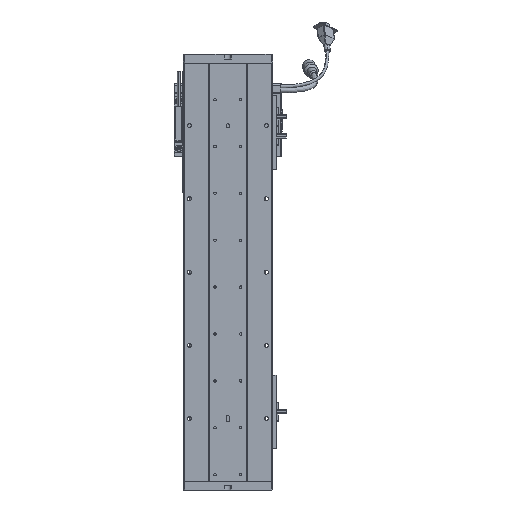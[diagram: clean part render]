
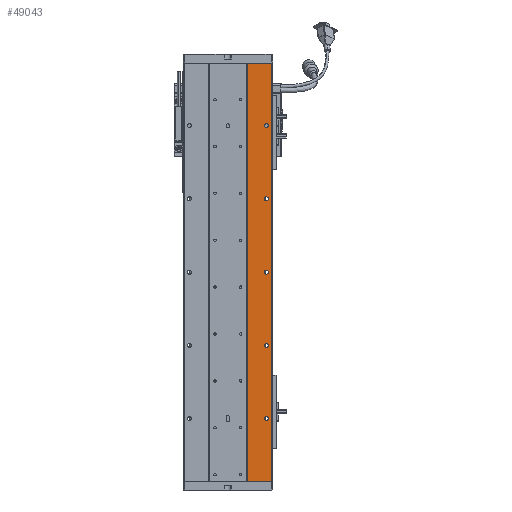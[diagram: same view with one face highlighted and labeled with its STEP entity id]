
A CAD part, front view. The second image highlights one B-rep face of the part: STEP entity #49043.
In plain terms, the highlighted planar face has unit normal (0, -1, 0).
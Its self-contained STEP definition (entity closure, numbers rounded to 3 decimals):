
#82 = AXIS2_PLACEMENT_3D ( 'NONE', #60183, #43814, #5300 ) ;
#1457 = FACE_BOUND ( 'NONE', #54904, .T. ) ;
#1983 = AXIS2_PLACEMENT_3D ( 'NONE', #3714, #9398, #14108 ) ;
#2239 = DIRECTION ( 'NONE',  ( 0., 1., 0. ) ) ;
#2270 = VERTEX_POINT ( 'NONE', #67600 ) ;
#2427 = EDGE_CURVE ( 'NONE', #55731, #41365, #64438, .T. ) ;
#2991 = AXIS2_PLACEMENT_3D ( 'NONE', #46417, #53345, #51885 ) ;
#3366 = VERTEX_POINT ( 'NONE', #18206 ) ;
#3714 = CARTESIAN_POINT ( 'NONE',  ( 207.625, 76.768, 385.5 ) ) ;
#4024 = CIRCLE ( 'NONE', #35786, 2.75 ) ;
#4547 = DIRECTION ( 'NONE',  ( 0., 0., -1. ) ) ;
#4873 = FACE_BOUND ( 'NONE', #53090, .T. ) ;
#5300 = DIRECTION ( 'NONE',  ( 0., 0., 1. ) ) ;
#5404 = CARTESIAN_POINT ( 'NONE',  ( 214.532, 76.768, 571. ) ) ;
#5788 = CARTESIAN_POINT ( 'NONE',  ( 181.625, 76.768, 571. ) ) ;
#6448 = ORIENTED_EDGE ( 'NONE', *, *, #24940, .F. ) ;
#6592 = DIRECTION ( 'NONE',  ( 0., 1., 0. ) ) ;
#8268 = FACE_BOUND ( 'NONE', #39313, .T. ) ;
#8433 = EDGE_CURVE ( 'NONE', #27544, #26632, #40908, .T. ) ;
#9206 = AXIS2_PLACEMENT_3D ( 'NONE', #35729, #46166, #30067 ) ;
#9398 = DIRECTION ( 'NONE',  ( 0., 1., 0. ) ) ;
#9438 = DIRECTION ( 'NONE',  ( 0., 0., 1. ) ) ;
#11391 = DIRECTION ( 'NONE',  ( 0., 1., 0. ) ) ;
#11766 = CARTESIAN_POINT ( 'NONE',  ( 84.971, 76.768, 0. ) ) ;
#13522 = VERTEX_POINT ( 'NONE', #49996 ) ;
#14108 = DIRECTION ( 'NONE',  ( 0., 0., 1. ) ) ;
#14133 = FACE_BOUND ( 'NONE', #24852, .T. ) ;
#15127 = CARTESIAN_POINT ( 'NONE',  ( 207.625, 76.768, 185.5 ) ) ;
#15269 = CARTESIAN_POINT ( 'NONE',  ( 207.625, 76.768, 288.25 ) ) ;
#15447 = CIRCLE ( 'NONE', #2991, 2.75 ) ;
#16073 = EDGE_CURVE ( 'NONE', #26632, #27544, #15447, .T. ) ;
#17246 = CIRCLE ( 'NONE', #9206, 2.75 ) ;
#17669 = CARTESIAN_POINT ( 'NONE',  ( 207.625, 76.768, 482.75 ) ) ;
#18175 = CARTESIAN_POINT ( 'NONE',  ( 207.625, 76.768, 488.25 ) ) ;
#18206 = CARTESIAN_POINT ( 'NONE',  ( 207.625, 76.768, 82.75 ) ) ;
#19567 = CARTESIAN_POINT ( 'NONE',  ( 84.971, 76.768, 571. ) ) ;
#20148 = AXIS2_PLACEMENT_3D ( 'NONE', #45501, #2239, #67040 ) ;
#20963 = DIRECTION ( 'NONE',  ( 0., 1., 0. ) ) ;
#22621 = FACE_BOUND ( 'NONE', #58140, .T. ) ;
#24852 = EDGE_LOOP ( 'NONE', ( #40406, #56434 ) ) ;
#24940 = EDGE_CURVE ( 'NONE', #2270, #44544, #62231, .T. ) ;
#26632 = VERTEX_POINT ( 'NONE', #31337 ) ;
#27130 = DIRECTION ( 'NONE',  ( -1., 0., 0. ) ) ;
#27544 = VERTEX_POINT ( 'NONE', #15269 ) ;
#27560 = LINE ( 'NONE', #52358, #52165 ) ;
#28001 = CIRCLE ( 'NONE', #20148, 2.75 ) ;
#28228 = CARTESIAN_POINT ( 'NONE',  ( 0., 76.768, 0. ) ) ;
#28294 = PLANE ( 'NONE',  #68867 ) ;
#29390 = AXIS2_PLACEMENT_3D ( 'NONE', #46886, #67515, #67733 ) ;
#29711 = EDGE_CURVE ( 'NONE', #45384, #58738, #45587, .T. ) ;
#30019 = ORIENTED_EDGE ( 'NONE', *, *, #16073, .T. ) ;
#30067 = DIRECTION ( 'NONE',  ( 0., 0., 1. ) ) ;
#31337 = CARTESIAN_POINT ( 'NONE',  ( 207.625, 76.768, 282.75 ) ) ;
#31498 = EDGE_CURVE ( 'NONE', #3366, #13522, #38263, .T. ) ;
#31661 = EDGE_CURVE ( 'NONE', #41365, #55731, #52689, .T. ) ;
#32720 = DIRECTION ( 'NONE',  ( 0., 0., -1. ) ) ;
#32755 = ORIENTED_EDGE ( 'NONE', *, *, #43008, .T. ) ;
#33206 = DIRECTION ( 'NONE',  ( -1., 0., 0. ) ) ;
#33397 = VECTOR ( 'NONE', #33206, 1000. ) ;
#33590 = VECTOR ( 'NONE', #32720, 1000. ) ;
#35729 = CARTESIAN_POINT ( 'NONE',  ( 207.625, 76.768, 85.5 ) ) ;
#35786 = AXIS2_PLACEMENT_3D ( 'NONE', #59453, #11391, #60144 ) ;
#35800 = EDGE_CURVE ( 'NONE', #58738, #45384, #42753, .T. ) ;
#36346 = CARTESIAN_POINT ( 'NONE',  ( 207.625, 76.768, 185.5 ) ) ;
#38263 = CIRCLE ( 'NONE', #54942, 2.75 ) ;
#38745 = DIRECTION ( 'NONE',  ( 0., 0., 1. ) ) ;
#39313 = EDGE_LOOP ( 'NONE', ( #62861, #62161 ) ) ;
#40406 = ORIENTED_EDGE ( 'NONE', *, *, #61373, .T. ) ;
#40908 = CIRCLE ( 'NONE', #29390, 2.75 ) ;
#41082 = VERTEX_POINT ( 'NONE', #5404 ) ;
#41365 = VERTEX_POINT ( 'NONE', #42060 ) ;
#41392 = DIRECTION ( 'NONE',  ( 0., 0., 1. ) ) ;
#42060 = CARTESIAN_POINT ( 'NONE',  ( 207.625, 76.768, 388.25 ) ) ;
#42108 = DIRECTION ( 'NONE',  ( 0., 1., 0. ) ) ;
#42647 = VERTEX_POINT ( 'NONE', #18175 ) ;
#42753 = CIRCLE ( 'NONE', #53794, 2.75 ) ;
#43008 = EDGE_CURVE ( 'NONE', #41082, #67294, #60810, .T. ) ;
#43814 = DIRECTION ( 'NONE',  ( 0., 1., 0. ) ) ;
#44544 = VERTEX_POINT ( 'NONE', #47973 ) ;
#44765 = CARTESIAN_POINT ( 'NONE',  ( 207.625, 76.768, 188.25 ) ) ;
#45384 = VERTEX_POINT ( 'NONE', #44765 ) ;
#45501 = CARTESIAN_POINT ( 'NONE',  ( 207.625, 76.768, 485.5 ) ) ;
#45587 = CIRCLE ( 'NONE', #67943, 2.75 ) ;
#46166 = DIRECTION ( 'NONE',  ( 0., 1., 0. ) ) ;
#46357 = VECTOR ( 'NONE', #27130, 1000. ) ;
#46417 = CARTESIAN_POINT ( 'NONE',  ( 207.625, 76.768, 285.5 ) ) ;
#46478 = CARTESIAN_POINT ( 'NONE',  ( 207.625, 76.768, 182.75 ) ) ;
#46886 = CARTESIAN_POINT ( 'NONE',  ( 207.625, 76.768, 285.5 ) ) ;
#46992 = ORIENTED_EDGE ( 'NONE', *, *, #8433, .T. ) ;
#47164 = DIRECTION ( 'NONE',  ( 0., 1., 0. ) ) ;
#47973 = CARTESIAN_POINT ( 'NONE',  ( 181.625, 76.768, 0. ) ) ;
#48630 = ORIENTED_EDGE ( 'NONE', *, *, #67230, .F. ) ;
#48960 = ORIENTED_EDGE ( 'NONE', *, *, #58092, .T. ) ;
#49043 = ADVANCED_FACE ( 'NONE', ( #22621, #8268, #14133, #4873, #1457, #70035 ), #28294, .F. ) ;
#49996 = CARTESIAN_POINT ( 'NONE',  ( 207.625, 76.768, 88.25 ) ) ;
#50679 = VERTEX_POINT ( 'NONE', #17669 ) ;
#51885 = DIRECTION ( 'NONE',  ( 0., 0., 1. ) ) ;
#52165 = VECTOR ( 'NONE', #4547, 1000. ) ;
#52358 = CARTESIAN_POINT ( 'NONE',  ( 214.532, 76.768, 571. ) ) ;
#52689 = CIRCLE ( 'NONE', #82, 2.75 ) ;
#53090 = EDGE_LOOP ( 'NONE', ( #58116, #69848 ) ) ;
#53345 = DIRECTION ( 'NONE',  ( 0., 1., 0. ) ) ;
#53794 = AXIS2_PLACEMENT_3D ( 'NONE', #36346, #20963, #9438 ) ;
#54904 = EDGE_LOOP ( 'NONE', ( #46992, #30019 ) ) ;
#54942 = AXIS2_PLACEMENT_3D ( 'NONE', #64235, #47164, #63520 ) ;
#55731 = VERTEX_POINT ( 'NONE', #60708 ) ;
#56434 = ORIENTED_EDGE ( 'NONE', *, *, #31498, .T. ) ;
#58092 = EDGE_CURVE ( 'NONE', #42647, #50679, #4024, .T. ) ;
#58116 = ORIENTED_EDGE ( 'NONE', *, *, #29711, .T. ) ;
#58140 = EDGE_LOOP ( 'NONE', ( #48960, #67491 ) ) ;
#58732 = CARTESIAN_POINT ( 'NONE',  ( 181.625, 76.768, 571. ) ) ;
#58738 = VERTEX_POINT ( 'NONE', #46478 ) ;
#59453 = CARTESIAN_POINT ( 'NONE',  ( 207.625, 76.768, 485.5 ) ) ;
#59646 = EDGE_LOOP ( 'NONE', ( #65681, #6448, #48630, #32755 ) ) ;
#60144 = DIRECTION ( 'NONE',  ( 0., 0., 1. ) ) ;
#60183 = CARTESIAN_POINT ( 'NONE',  ( 207.625, 76.768, 385.5 ) ) ;
#60708 = CARTESIAN_POINT ( 'NONE',  ( 207.625, 76.768, 382.75 ) ) ;
#60810 = LINE ( 'NONE', #19567, #46357 ) ;
#61373 = EDGE_CURVE ( 'NONE', #13522, #3366, #17246, .T. ) ;
#62161 = ORIENTED_EDGE ( 'NONE', *, *, #2427, .T. ) ;
#62231 = LINE ( 'NONE', #28228, #33397 ) ;
#62434 = LINE ( 'NONE', #5788, #33590 ) ;
#62861 = ORIENTED_EDGE ( 'NONE', *, *, #31661, .T. ) ;
#63520 = DIRECTION ( 'NONE',  ( 0., 0., 1. ) ) ;
#63775 = EDGE_CURVE ( 'NONE', #50679, #42647, #28001, .T. ) ;
#64235 = CARTESIAN_POINT ( 'NONE',  ( 207.625, 76.768, 85.5 ) ) ;
#64438 = CIRCLE ( 'NONE', #1983, 2.75 ) ;
#65681 = ORIENTED_EDGE ( 'NONE', *, *, #66766, .T. ) ;
#66766 = EDGE_CURVE ( 'NONE', #67294, #44544, #62434, .T. ) ;
#67040 = DIRECTION ( 'NONE',  ( 0., 0., 1. ) ) ;
#67230 = EDGE_CURVE ( 'NONE', #41082, #2270, #27560, .T. ) ;
#67294 = VERTEX_POINT ( 'NONE', #58732 ) ;
#67491 = ORIENTED_EDGE ( 'NONE', *, *, #63775, .T. ) ;
#67515 = DIRECTION ( 'NONE',  ( 0., 1., 0. ) ) ;
#67600 = CARTESIAN_POINT ( 'NONE',  ( 214.532, 76.768, 0. ) ) ;
#67733 = DIRECTION ( 'NONE',  ( 0., 0., 1. ) ) ;
#67943 = AXIS2_PLACEMENT_3D ( 'NONE', #15127, #42108, #41392 ) ;
#68867 = AXIS2_PLACEMENT_3D ( 'NONE', #11766, #6592, #38745 ) ;
#69848 = ORIENTED_EDGE ( 'NONE', *, *, #35800, .T. ) ;
#70035 = FACE_OUTER_BOUND ( 'NONE', #59646, .T. ) ;
